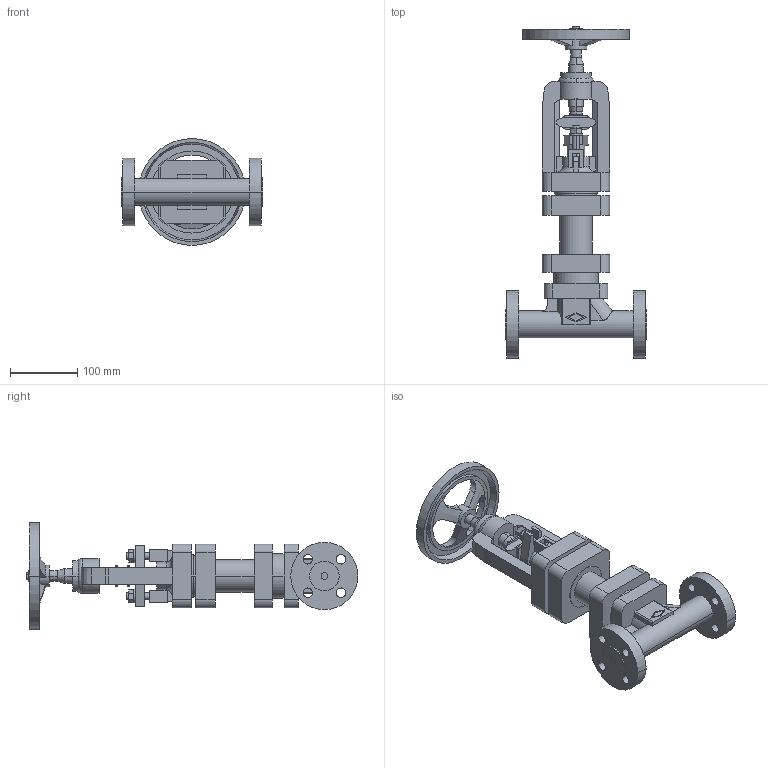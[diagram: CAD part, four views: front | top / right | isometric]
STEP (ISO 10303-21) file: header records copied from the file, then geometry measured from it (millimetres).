
FILE_DESCRIPTION(('Creo Elements/Direct Modeling STEP Export'),'2;1');
FILE_NAME('Figur146_DN10_PN160.stp','2018-01-22T 8:16:51',(''),(''),'Creo Elements/Direct Modeling STEP processor for AP214 (Solid Model)','Creo Elements/Direct Modeling 18.1C 24-Feb-2013 (C) Parametric Technology GmbH','');
FILE_SCHEMA(('AUTOMOTIVE_DESIGN { 1 0 10303 214 1 1 1 1 }'));
Length unit declared in the file: millimetre
Products named in the file (1): 1
Bounding box: 210 x 493.55 x 158.78 mm (x, y, z)
Volume: 2237924.1 mm3; surface area: 286757 mm2
Topology: 1 solids, 1 shells, 383 faces, 1030 edges, 680 vertices
Faces by surface type: plane 218, cylinder 137, cone 14, extrusion 8, torus 6
Entity records: 12275 total; most frequent: CARTESIAN_POINT 3064, ORIENTED_EDGE 2060, DIRECTION 1727, EDGE_CURVE 1030, VERTEX_POINT 680, VECTOR 629, LINE 623, AXIS2_PLACEMENT_3D 549
